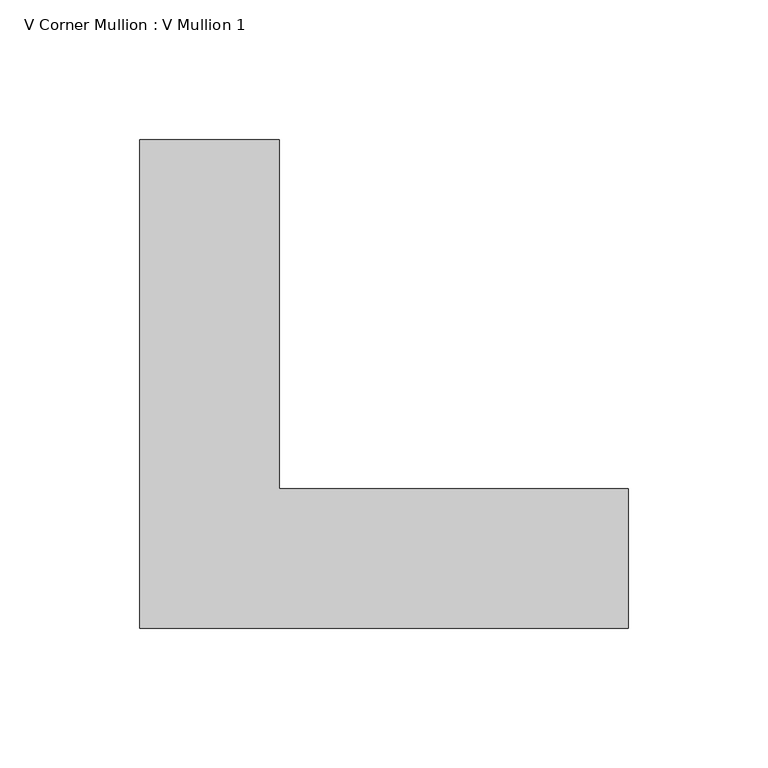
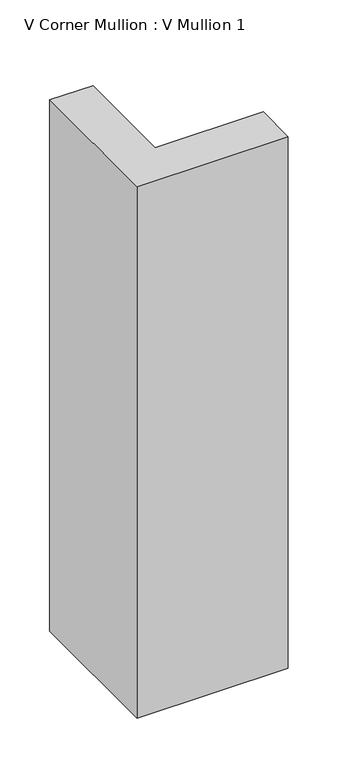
"""IFC4 building model written with IfcOpenShell, lengths in millimetres: member geometry, V Corner Mullion : V Mullion 1."""

import ifcopenshell
import ifcopenshell.guid

model = None  # the IFC model being written
_history = None  # IfcOwnerHistory: only IFC2X3 demands one
_inside = {}  # id of a spatial element -> (the spatial element, [elements in it])
_under = {}  # id of a project, library or spatial element -> (it, [spatial elements below it])
_declared = {}  # id of a project -> (the project, [libraries it declares])
_typed = {}  # id of a type object -> (the type object, [elements of that type])
_made_of = {}  # id of a material, layer set ... -> (it, [elements and type objects made of it])


def new_model(schema):
    """Start an empty IFC model of exactly this schema.

    Asked for "IFC4X3", IfcOpenShell would pick the latest addendum, in which some entities
    have other attributes; the version numbers below select the first issue.
    IFC2X3 requires an IfcOwnerHistory on every rooted entity: one is made here for all.
    """
    global model, _history
    if schema == "IFC4X3":
        model = ifcopenshell.file(schema_version=(4, 3, 0, 0))
    else:
        model = ifcopenshell.file(schema=schema)
    _inside.clear()
    _under.clear()
    _declared.clear()
    _typed.clear()
    _made_of.clear()
    _history = None
    if model.schema == "IFC2X3":
        org = make("IfcOrganization", Name="unknown")
        user = make(
            "IfcPersonAndOrganization",
            ThePerson=make("IfcPerson", FamilyName="unknown"),
            TheOrganization=org,
        )
        app = make(
            "IfcApplication",
            ApplicationDeveloper=org,
            Version="unknown",
            ApplicationFullName="unknown",
            ApplicationIdentifier="unknown",
        )
        _history = make(
            "IfcOwnerHistory",
            OwningUser=user,
            OwningApplication=app,
            ChangeAction="ADDED",
            CreationDate=0,
        )
    return model


def make(cls, **values):
    """One entity of the class cls with the attributes given. An attribute that is None is left unset."""
    return model.create_entity(
        cls, **{name: value for name, value in values.items() if value is not None}
    )


def rooted(cls, **values):
    """An entity with a GlobalId (a new one), such as an element, a storey or a relation."""
    return make(cls, GlobalId=ifcopenshell.guid.new(), OwnerHistory=_history, **values)


def si_unit(unit_type, name, prefix=None):
    """IfcSIUnit, for example si_unit("LENGTHUNIT", "METRE", prefix="MILLI")."""
    return make("IfcSIUnit", UnitType=unit_type, Prefix=prefix, Name=name)


def assignment(units):
    """IfcUnitAssignment: the units of a project."""
    return None if units is None else make("IfcUnitAssignment", Units=units)


def point(xyz):
    """IfcCartesianPoint."""
    return None if xyz is None else make("IfcCartesianPoint", Coordinates=xyz)


def direction(xyz):
    """IfcDirection."""
    return None if xyz is None else make("IfcDirection", DirectionRatios=xyz)


def frame(location, z_axis=None, x_axis=None):
    """IfcAxis2Placement3D, a coordinate frame: its origin and axes. An axis left out is left unset."""
    return make(
        "IfcAxis2Placement3D",
        Location=point(location),
        Axis=direction(z_axis),
        RefDirection=direction(x_axis),
    )


def origin():
    """The frame at (0, 0, 0) with its axes left unset."""
    return frame((0.0, 0.0, 0.0))


def place(relative_to, where):
    """IfcLocalPlacement: puts the frame where relative to a parent placement (None: the world)."""
    return make(
        "IfcLocalPlacement", PlacementRelTo=relative_to, RelativePlacement=where
    )


def context(
    kind, dimensions, precision=None, world=None, true_north=None, identifier=None
):
    """IfcGeometricRepresentationContext, for example the 3D "Model" context."""
    return make(
        "IfcGeometricRepresentationContext",
        ContextIdentifier=identifier,
        ContextType=kind,
        CoordinateSpaceDimension=dimensions,
        Precision=precision,
        WorldCoordinateSystem=world,
        TrueNorth=true_north,
    )


def project(units=None, contexts=None):
    """IfcProject with its units and contexts."""
    return rooted(
        "IfcProject",
        Name="project",
        RepresentationContexts=contexts,
        UnitsInContext=assignment(units),
    )


def spatial(cls, under=None, at=None, **own):
    """A site, building, storey or space (cls), placed at a placement, below another one or the project."""
    s = rooted(cls, ObjectPlacement=at, **own)
    if under is not None:
        _under.setdefault(under.id(), (under, []))[1].append(s)
    return s


def polyline(points):
    """IfcPolyline through the points."""
    return make("IfcPolyline", Points=[point(p) for p in points])


def outline(outer, holes=None, kind="AREA"):
    """IfcArbitraryClosedProfileDef: a profile drawn as a closed curve; with holes, ...WithVoids."""
    if holes is None:
        return make("IfcArbitraryClosedProfileDef", ProfileType=kind, OuterCurve=outer)
    return make(
        "IfcArbitraryProfileDefWithVoids",
        ProfileType=kind,
        OuterCurve=outer,
        InnerCurves=holes,
    )


def extrude(swept, where, along, depth):
    """IfcExtrudedAreaSolid: the profile swept, set in the frame where, extruded along a direction by depth."""
    return make(
        "IfcExtrudedAreaSolid",
        SweptArea=swept,
        Position=where,
        ExtrudedDirection=direction(along),
        Depth=depth,
    )


def shape(context_of_items, identifier, shape_type, items):
    """IfcShapeRepresentation: the items that make up one representation, for example the "Body"."""
    return make(
        "IfcShapeRepresentation",
        ContextOfItems=context_of_items,
        RepresentationIdentifier=identifier,
        RepresentationType=shape_type,
        Items=items,
    )


def source(mapping_origin, context_of_items, identifier, shape_type, items):
    """IfcRepresentationMap: a shape defined once, which mapped items show again and again."""
    return make(
        "IfcRepresentationMap",
        MappingOrigin=mapping_origin,
        MappedRepresentation=shape(context_of_items, identifier, shape_type, items),
    )


def transform(
    local_origin,
    x_axis=None,
    y_axis=None,
    z_axis=None,
    scale=None,
    scale2=None,
    scale3=None,
    uniform=True,
):
    """IfcCartesianTransformationOperator3D, or its non-uniform kind. x_axis, y_axis, z_axis: its Axis1, 2, 3."""
    if uniform:
        return make(
            "IfcCartesianTransformationOperator3D",
            Axis1=direction(x_axis),
            Axis2=direction(y_axis),
            LocalOrigin=point(local_origin),
            Scale=scale,
            Axis3=direction(z_axis),
        )
    return make(
        "IfcCartesianTransformationOperator3DnonUniform",
        Axis1=direction(x_axis),
        Axis2=direction(y_axis),
        LocalOrigin=point(local_origin),
        Scale=scale,
        Axis3=direction(z_axis),
        Scale2=scale2,
        Scale3=scale3,
    )


def mapped(mapping_source, mapping_target):
    """IfcMappedItem: shows the shape of a source again, moved by a transform."""
    return make(
        "IfcMappedItem", MappingSource=mapping_source, MappingTarget=mapping_target
    )


def made_of(thing, what):
    """Note that an element or type object is made of a material, layer set ...; save() writes the relation."""
    if what is not None:
        _made_of.setdefault(what.id(), (what, []))[1].append(thing)
    return thing


def element(
    cls,
    number,
    at=None,
    inside=None,
    cuts=None,
    type_object=None,
    material=None,
    context=None,
    identifier="Body",
    shape_type=None,
    held_by="IfcProductDefinitionShape",
    body=None,
    shapes=None,
    **own,
):
    """One element of the class cls, such as IfcWall. Its Tag is "e" and its number.

    at: its placement. inside: the storey or other place that contains it. cuts: it is an
    opening in that element (IfcRelVoidsElement). A single representation is given by context,
    identifier, shape_type and body (its items); several are given by shapes. held_by: the class
    of the entity that holds the representations. save() writes the other relations.
    """
    e = rooted(cls, Tag="e%d" % number, ObjectPlacement=at, **own)
    if body is not None:
        shapes = [shape(context, identifier, shape_type, body)]
    if shapes is not None:
        e.Representation = make(held_by, Representations=shapes)
    if inside is not None:
        _inside.setdefault(inside.id(), (inside, []))[1].append(e)
    if cuts is not None:
        rooted(
            "IfcRelVoidsElement", RelatingBuildingElement=cuts, RelatedOpeningElement=e
        )
    if type_object is not None:
        _typed.setdefault(type_object.id(), (type_object, []))[1].append(e)
    return made_of(e, material)


def aggregate(whole, parts):
    """IfcRelAggregates: a whole, such as a stair, and the parts it consists of."""
    return rooted("IfcRelAggregates", RelatingObject=whole, RelatedObjects=parts)


def save(model, path):
    """Write the relations noted so far, then the file.

    IfcRelAggregates (storeys below a building ...), IfcRelContainedInSpatialStructure (elements
    in a storey), IfcRelDefinesByType, IfcRelAssociatesMaterial and IfcRelDeclares: one each for
    every whole, place, type object, material and project.
    """
    for whole, parts in _under.values():
        aggregate(whole, parts)
    for where, things in _inside.values():
        rooted(
            "IfcRelContainedInSpatialStructure",
            RelatedElements=things,
            RelatingStructure=where,
        )
    for kind, things in _typed.values():
        rooted("IfcRelDefinesByType", RelatedObjects=things, RelatingType=kind)
    for what, things in _made_of.values():
        rooted("IfcRelAssociatesMaterial", RelatedObjects=things, RelatingMaterial=what)
    for by, libraries in _declared.values():
        rooted("IfcRelDeclares", RelatingContext=by, RelatedDefinitions=libraries)
    model.write(path)


def v_corner_mullion_v_mullion_1_71accf86(model_context):
    return source(origin(), model_context, "Body", "SweptSolid", [
        extrude(outline(polyline([(75.0, -100.0), (-100.0, -100.0), (-100.0, 75.0), (-50.0, 75.0), (-50.0, -50.0), (75.0, -50.0), (75.0, -100.0)])), frame((0.0, 0.0, -650.0), z_axis=(0.0, 0.0, 1.0), x_axis=(1.0, 0.0, 0.0)), (0.0, 0.0, 1.0), 650.0),
    ])


if __name__ == "__main__":
    model = new_model("IFC4")
    model_context = context("Model", 3, world=origin())
    ifc_project = project(units=[si_unit("LENGTHUNIT", "METRE", prefix="MILLI")], contexts=[model_context])
    site = spatial("IfcSite", under=ifc_project)
    building = spatial("IfcBuilding", under=site)
    placement = place(None, origin())
    v_corner_mullion_v_mullion_1_shape = v_corner_mullion_v_mullion_1_71accf86(model_context)
    element("IfcMember", 1, ObjectType="V Corner Mullion : V Mullion 1", at=placement, inside=building, context=model_context, shape_type="MappedRepresentation", body=[
        mapped(v_corner_mullion_v_mullion_1_shape, transform((0.0, 0.0, 0.0), x_axis=(1.0, 0.0, 0.0), y_axis=(0.0, 1.0, 0.0), z_axis=(0.0, 0.0, 1.0))),
    ])
    save(model, "model.ifc")
